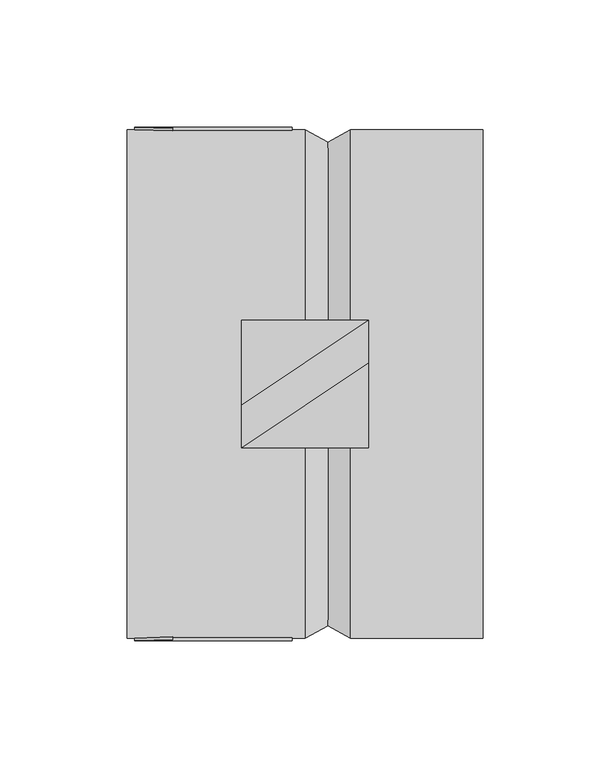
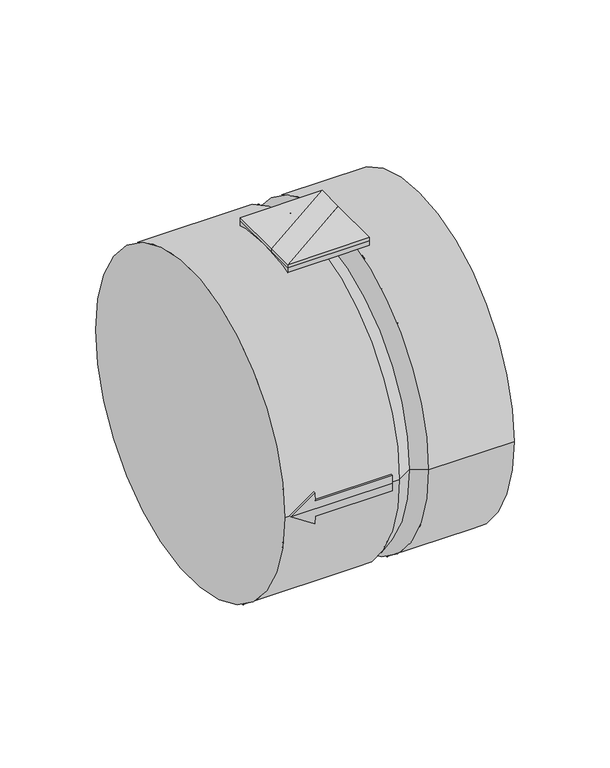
"""IFC4 building model written with IfcOpenShell, lengths in millimetres: damper geometry, KORF_Клапан_Обратный_Круглый_KOK : КОK 200."""

from ifc_helpers import new_model, si_unit, frame, origin, place, context, project, spatial, polyline, circle_curve, ellipse_curve, outline, extrude, source, transform, mapped, element, save
from ifc_brep_helpers import plane_surface, cylinder_surface, revolved_surface, advanced_brep


def damper_7a215fe3(model_context):
    return source(origin(), model_context, "Body", "SolidModel", [
        extrude(outline(polyline([(95.0, 25.0), (95.0, 8.3333333), (45.0, -25.0), (45.0, -8.3333333), (95.0, 25.0)])), frame((0.0, 0.0, 100.0), z_axis=(0.0, 0.0, 1.0), x_axis=(1.0, 0.0, 0.0)), (0.0, 0.0, 1.0), 2.0),
        extrude(outline(polyline([(95.0, 25.0), (45.0, -8.3333333), (45.0, 25.0), (95.0, 25.0)])), frame((0.0, 0.0, 100.0), z_axis=(0.0, 0.0, 1.0), x_axis=(1.0, 0.0, 0.0)), (0.0, 0.0, 1.0), 2.0),
        extrude(outline(polyline([(45.0, -25.0), (95.0, 8.3333333), (95.0, -25.0), (45.0, -25.0)])), frame((0.0, 0.0, 100.0), z_axis=(0.0, 0.0, 1.0), x_axis=(1.0, 0.0, 0.0)), (0.0, 0.0, 1.0), 2.0),
        advanced_brep(
        [(18.0, -99.4987437, 10.0), (3.0, -100.0, 0.0), (3.0, -101.0, 0.0), (18.0, -100.5037313, 10.0), (18.0, -99.4987437, -10.0), (18.0, -100.5037313, -10.0), (18.0, -99.8749218, -5.0), (18.0, -100.8761617, -5.0), (65.0, -99.8749218, -5.0), (65.0, -100.8761617, -5.0), (65.0, -100.0, 0.0), (65.0, -99.8749218, 5.0), (65.0, -100.8761617, 5.0), (65.0, -101.0, 0.0), (18.0, -99.8749218, 5.0), (18.0, -100.8761617, 5.0)],
        [
            (0, 1, ellipse_curve(frame((3.0, 0.0, 0.0), z_axis=(0.5547001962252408, 0.0, -0.832050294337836), x_axis=(0.8320502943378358, 0.0, 0.5547001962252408)), 180.2775638, 100.0)),
            (1, 2),
            (2, 3, ellipse_curve(frame((3.0, 0.0, 0.0), z_axis=(-0.5547001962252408, 0.0, 0.832050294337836), x_axis=(-0.8320502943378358, 0.0, -0.5547001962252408)), 182.0803394, 101.0)),
            (3, 0),
            (1, 4, ellipse_curve(frame((3.0, 0.0, 0.0), z_axis=(0.5547001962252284, 0.0, 0.8320502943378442), x_axis=(0.8320502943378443, 0.0, -0.5547001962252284)), 180.2775638, 100.0)),
            (4, 5),
            (5, 2, ellipse_curve(frame((3.0, 0.0, 0.0), z_axis=(-0.5547001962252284, 0.0, -0.8320502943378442), x_axis=(-0.8320502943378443, 0.0, 0.5547001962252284)), 182.0803394, 101.0)),
            (4, 6, circle_curve(frame((18.0, 0.0, 0.0), z_axis=(-1.0, 0.0, 0.0), x_axis=(0.0, 1.0, 0.0)), 100.0)),
            (6, 7),
            (7, 5, circle_curve(frame((18.0, 0.0, 0.0), z_axis=(1.0, 0.0, 0.0), x_axis=(0.0, 1.0, 0.0)), 101.0)),
            (6, 8),
            (8, 9),
            (9, 7),
            (8, 10, circle_curve(frame((65.0, 0.0, 0.0), z_axis=(-1.0, 0.0, 0.0), x_axis=(0.0, 1.0, 0.0)), 100.0)),
            (10, 11, circle_curve(frame((65.0, 0.0, 0.0), z_axis=(-1.0, 0.0, 0.0), x_axis=(0.0, 1.0, 0.0)), 100.0)),
            (11, 12),
            (12, 13, circle_curve(frame((65.0, 0.0, 0.0), z_axis=(1.0, 0.0, 0.0), x_axis=(0.0, 1.0, 0.0)), 101.0)),
            (13, 9, circle_curve(frame((65.0, 0.0, 0.0), z_axis=(1.0, 0.0, 0.0), x_axis=(0.0, 1.0, 0.0)), 101.0)),
            (11, 14),
            (14, 15),
            (15, 12),
            (14, 0, circle_curve(frame((18.0, 0.0, 0.0), z_axis=(-1.0, 0.0, 0.0), x_axis=(0.0, 1.0, 0.0)), 100.0)),
            (3, 15, circle_curve(frame((18.0, 0.0, 0.0), z_axis=(1.0, 0.0, 0.0), x_axis=(0.0, 1.0, 0.0)), 101.0)),
            (1, 10),
            (2, 13),
        ],
        [
            plane_surface(frame((18.0, -102.0, 10.0), z_axis=(-0.5547001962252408, 0.0, 0.832050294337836), x_axis=(0.0, 1.0, 0.0))),
            plane_surface(frame((3.0, -102.0, 0.0), z_axis=(-0.5547001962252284, 0.0, -0.8320502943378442), x_axis=(0.0, 1.0, 0.0))),
            plane_surface(frame((18.0, -102.0, -10.0), z_axis=(1.0, 0.0, 0.0), x_axis=(0.0, 1.0, 0.0))),
            plane_surface(frame((18.0, -102.0, -5.0), z_axis=(0.0, 0.0, -1.0), x_axis=(0.0, 1.0, 0.0))),
            plane_surface(frame((65.0, -102.0, -5.0), z_axis=(1.0, 0.0, 0.0), x_axis=(0.0, 1.0, 0.0))),
            plane_surface(frame((65.0, -102.0, 5.0), z_axis=(0.0, 0.0, 1.0), x_axis=(0.0, 1.0, 0.0))),
            plane_surface(frame((18.0, -102.0, 5.0), z_axis=(1.0, 0.0, 0.0), x_axis=(0.0, 1.0, 0.0))),
            revolved_surface(polyline([(153.0000000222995, 100.0, 0.0), (-147.0000000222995, 100.0, 0.0)]), (0.0, 0.0, 0.0), (1.0, 0.0, 0.0)),
            revolved_surface(polyline([(153.00000002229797, 100.0, 0.0), (-147.00000002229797, 100.0, 0.0)]), (0.0, 0.0, 0.0), (1.0, 0.0, 0.0)),
            cylinder_surface(frame((0.0, 0.0, 0.0), z_axis=(-1.0, 0.0, 0.0), x_axis=(0.0, 1.0, 0.0)), 101.0),
        ],
        [
            (0, [[1, 2, 3, 4]]),
            (1, [[5, 6, 7, -2]]),
            (2, [[8, 9, 10, -6]]),
            (3, [[11, 12, 13, -9]]),
            (4, [[14, 15, 16, 17, 18, -12]]),
            (5, [[19, 20, 21, -16]]),
            (6, [[22, -4, 23, -20]]),
            (7, [[24, -14, -11, -8, -5]]),
            (8, [[-24, -1, -22, -19, -15]]),
            (9, [[25, -17, -21, -23, -3]]),
            (9, [[-25, -7, -10, -13, -18]]),
        ],
    ),
        advanced_brep(
        [(3.0, 100.0, 0.0), (18.0, 99.4987437, 10.0), (18.0, 100.5037313, 10.0), (3.0, 101.0, 0.0), (18.0, 99.4987437, -10.0), (18.0, 100.5037313, -10.0), (18.0, 99.8749218, -5.0), (18.0, 100.8761617, -5.0), (65.0, 99.8749218, -5.0), (65.0, 100.8761617, -5.0), (65.0, 100.0, 0.0), (65.0, 101.0, 0.0), (65.0, 100.8761617, 5.0), (65.0, 99.8749218, 5.0), (18.0, 99.8749218, 5.0), (18.0, 100.8761617, 5.0)],
        [
            (0, 1, ellipse_curve(frame((3.0, 0.0, 0.0), z_axis=(0.5547001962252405, 0.0, -0.8320502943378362), x_axis=(0.8320502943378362, 0.0, 0.5547001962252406)), 180.2775638, 100.0)),
            (1, 2),
            (2, 3, ellipse_curve(frame((3.0, 0.0, 0.0), z_axis=(-0.5547001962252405, 0.0, 0.8320502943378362), x_axis=(-0.8320502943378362, 0.0, -0.5547001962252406)), 182.0803394, 101.0)),
            (3, 0),
            (4, 0, ellipse_curve(frame((3.0, 0.0, 0.0), z_axis=(0.554700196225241, 0.0, 0.8320502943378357), x_axis=(0.8320502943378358, 0.0, -0.554700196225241)), 180.2775638, 100.0)),
            (3, 5, ellipse_curve(frame((3.0, 0.0, 0.0), z_axis=(-0.554700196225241, 0.0, -0.8320502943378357), x_axis=(-0.8320502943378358, 0.0, 0.554700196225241)), 182.0803394, 101.0)),
            (5, 4),
            (6, 4, circle_curve(frame((18.0, 0.0, 0.0), z_axis=(-1.0, 0.0, 0.0), x_axis=(0.0, 1.0, 0.0)), 100.0)),
            (5, 7, circle_curve(frame((18.0, 0.0, 0.0), z_axis=(1.0, 0.0, 0.0), x_axis=(0.0, 1.0, 0.0)), 101.0)),
            (7, 6),
            (8, 6),
            (7, 9),
            (9, 8),
            (10, 8, circle_curve(frame((65.0, 0.0, 0.0), z_axis=(-1.0, 0.0, 0.0), x_axis=(0.0, 1.0, 0.0)), 100.0)),
            (9, 11, circle_curve(frame((65.0, 0.0, 0.0), z_axis=(1.0, 0.0, 0.0), x_axis=(0.0, 1.0, 0.0)), 101.0)),
            (11, 12, circle_curve(frame((65.0, 0.0, 0.0), z_axis=(1.0, 0.0, 0.0), x_axis=(0.0, 1.0, 0.0)), 101.0)),
            (12, 13),
            (13, 10, circle_curve(frame((65.0, 0.0, 0.0), z_axis=(-1.0, 0.0, 0.0), x_axis=(0.0, 1.0, 0.0)), 100.0)),
            (14, 13),
            (12, 15),
            (15, 14),
            (1, 14, circle_curve(frame((18.0, 0.0, 0.0), z_axis=(-1.0, 0.0, 0.0), x_axis=(0.0, 1.0, 0.0)), 100.0)),
            (15, 2, circle_curve(frame((18.0, 0.0, 0.0), z_axis=(1.0, 0.0, 0.0), x_axis=(0.0, 1.0, 0.0)), 101.0)),
            (10, 0),
            (11, 3),
        ],
        [
            plane_surface(frame((18.0, 98.0, 10.0), z_axis=(-0.5547001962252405, 0.0, 0.8320502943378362), x_axis=(0.0, 1.0, 0.0))),
            plane_surface(frame((3.0, 98.0, 0.0), z_axis=(-0.554700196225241, 0.0, -0.8320502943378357), x_axis=(0.0, 1.0, 0.0))),
            plane_surface(frame((18.0, 98.0, -10.0), z_axis=(1.0, 0.0, 0.0), x_axis=(0.0, 1.0, 0.0))),
            plane_surface(frame((18.0, 98.0, -5.0), z_axis=(0.0, 0.0, -1.0), x_axis=(0.0, 1.0, 0.0))),
            plane_surface(frame((65.0, 98.0, -5.0), z_axis=(1.0, 0.0, 0.0), x_axis=(0.0, 1.0, 0.0))),
            plane_surface(frame((65.0, 98.0, 5.0), z_axis=(0.0, 0.0, 1.0), x_axis=(0.0, 1.0, 0.0))),
            plane_surface(frame((18.0, 98.0, 5.0), z_axis=(1.0, 0.0, 0.0), x_axis=(0.0, 1.0, 0.0))),
            revolved_surface(polyline([(153.00000002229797, 100.0, 0.0), (-147.00000002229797, 100.0, 0.0)]), (0.0, 0.0, 0.0), (1.0, 0.0, 0.0)),
            revolved_surface(polyline([(153.00000002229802, 100.0, 0.0), (-147.00000002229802, 100.0, 0.0)]), (0.0, 0.0, 0.0), (1.0, 0.0, 0.0)),
            cylinder_surface(frame((0.0, 0.0, 0.0), z_axis=(-1.0, 0.0, 0.0), x_axis=(0.0, 1.0, 0.0)), 101.0),
        ],
        [
            (0, [[1, 2, 3, 4]]),
            (1, [[5, -4, 6, 7]]),
            (2, [[8, -7, 9, 10]]),
            (3, [[11, -10, 12, 13]]),
            (4, [[14, -13, 15, 16, 17, 18]]),
            (5, [[19, -17, 20, 21]]),
            (6, [[22, -21, 23, -2]]),
            (7, [[24, -5, -8, -11, -14]]),
            (8, [[-24, -18, -19, -22, -1]]),
            (9, [[25, -3, -23, -20, -16]]),
            (9, [[-25, -15, -12, -9, -6]]),
        ],
    ),
        advanced_brep(
        [(140.0, -100.0, 0.0), (140.0, 100.0, 0.0), (0.0, -100.0, 0.0), (0.0, 100.0, 0.0), (88.0, -100.0, 0.0), (88.0, 100.0, 0.0), (70.0, 100.0, 0.0), (70.0, -100.0, 0.0), (79.0, 95.0, 0.0), (79.0, -95.0, 0.0)],
        [
            (0, 1, circle_curve(frame((140.0, 0.0, 0.0), z_axis=(1.0, 0.0, 0.0), x_axis=(0.0, 1.0, 0.0)), 100.0)),
            (1, 0, circle_curve(frame((140.0, 0.0, 0.0), z_axis=(1.0, 0.0, 0.0), x_axis=(0.0, 1.0, 0.0)), 100.0)),
            (2, 3, circle_curve(frame((0.0, 0.0, 0.0), z_axis=(-1.0, 0.0, 0.0), x_axis=(0.0, 1.0, 0.0)), 100.0)),
            (3, 2, circle_curve(frame((0.0, 0.0, 0.0), z_axis=(-1.0, 0.0, 0.0), x_axis=(0.0, 1.0, 0.0)), 100.0)),
            (0, 4),
            (4, 5, circle_curve(frame((88.0, 0.0, 0.0), z_axis=(1.0, 0.0, 0.0), x_axis=(0.0, 1.0, 0.0)), 100.0)),
            (5, 1),
            (3, 6),
            (6, 7, circle_curve(frame((70.0, 0.0, 0.0), z_axis=(-1.0, 0.0, 0.0), x_axis=(0.0, 1.0, 0.0)), 100.0)),
            (7, 2),
            (5, 4, circle_curve(frame((88.0, 0.0, 0.0), z_axis=(1.0, 0.0, 0.0), x_axis=(0.0, 1.0, 0.0)), 100.0)),
            (7, 6, circle_curve(frame((70.0, 0.0, 0.0), z_axis=(-1.0, 0.0, 0.0), x_axis=(0.0, 1.0, 0.0)), 100.0)),
            (6, 8),
            (8, 9, circle_curve(frame((79.0, 0.0, 0.0), z_axis=(-1.0, 0.0, 0.0), x_axis=(0.0, -1.0, 0.0)), 95.0)),
            (9, 7),
            (8, 5),
            (4, 9),
            (9, 8, circle_curve(frame((79.0, 0.0, 0.0), z_axis=(-1.0, 0.0, 0.0), x_axis=(0.0, 1.0, 0.0)), 95.0)),
        ],
        [
            plane_surface(frame((140.0, 100.0, 0.0), z_axis=(1.0, 0.0, 0.0), x_axis=(0.0, 0.0, 1.0))),
            plane_surface(frame((0.0, 100.0, 0.0), z_axis=(-1.0, 0.0, 0.0), x_axis=(0.0, 0.0, -1.0))),
            cylinder_surface(frame((0.0, 0.0, 0.0), z_axis=(1.0, 0.0, 0.0), x_axis=(0.0, 1.0, 0.0)), 100.0),
            revolved_surface(polyline([(70.0, -100.0, 0.0), (79.0, -95.0, 0.0)]), (0.0, 0.0, 0.0), (1.0, 0.0, 0.0)),
            revolved_surface(polyline([(79.0, -95.0, 0.0), (88.0, -100.0, 0.0)]), (0.0, 0.0, 0.0), (1.0, 0.0, 0.0)),
            revolved_surface(polyline([(70.0, 100.0, 0.0), (79.0, 95.0, 0.0)]), (0.0, 0.0, 0.0), (1.0, 0.0, 0.0)),
            revolved_surface(polyline([(79.0, 95.0, 0.0), (88.0, 100.0, 0.0)]), (0.0, 0.0, 0.0), (1.0, 0.0, 0.0)),
        ],
        [
            (0, [[1, 2]]),
            (1, [[3, 4]]),
            (2, [[-1, 5, 6, 7]]),
            (2, [[-4, 8, 9, 10]]),
            (2, [[-2, -7, 11, -5]]),
            (2, [[-3, -10, 12, -8]]),
            (3, [[13, 14, 15, -9]]),
            (4, [[-14, 16, -6, 17]]),
            (5, [[-13, -12, -15, 18]]),
            (6, [[-16, -18, -17, -11]]),
        ],
    ),
        advanced_brep(
        [(45.0, 25.0, 96.8245837), (95.0, 25.0, 96.8245837), (95.0, 0.0, 100.0), (95.0, -25.0, 96.8245837), (45.0, -25.0, 96.8245837), (45.0, 0.0, 100.0), (95.0, 25.0, 100.0), (45.0, 25.0, 100.0), (45.0, -25.0, 100.0), (95.0, -25.0, 100.0)],
        [
            (0, 1),
            (1, 2, circle_curve(frame((95.0, 0.0, 0.0), z_axis=(1.0, 0.0, 0.0), x_axis=(0.0, 1.0, 0.0)), 100.0)),
            (2, 3, circle_curve(frame((95.0, 0.0, 0.0), z_axis=(1.0, 0.0, 0.0), x_axis=(0.0, 1.0, 0.0)), 100.0)),
            (3, 4),
            (4, 5, circle_curve(frame((45.0, 0.0, 0.0), z_axis=(-1.0, 0.0, 0.0), x_axis=(0.0, 1.0, 0.0)), 100.0)),
            (5, 0, circle_curve(frame((45.0, 0.0, 0.0), z_axis=(-1.0, 0.0, 0.0), x_axis=(0.0, 1.0, 0.0)), 100.0)),
            (6, 7),
            (7, 5),
            (5, 8),
            (8, 9),
            (9, 2),
            (2, 6),
            (6, 1),
            (0, 7),
            (4, 8),
            (3, 9),
        ],
        [
            revolved_surface(polyline([(95.0, 100.0, 0.0), (45.0, 100.0, 0.0)]), (0.0, 0.0, 0.0), (1.0, 0.0, 0.0)),
            plane_surface(frame((45.0, 25.0, 100.0), z_axis=(0.0, 0.0, 1.0), x_axis=(-1.0, 0.0, 0.0))),
            plane_surface(frame((95.0, 25.0, 100.0), z_axis=(0.0, 1.0, 0.0), x_axis=(0.0, 0.0, -1.0))),
            plane_surface(frame((45.0, 25.0, 100.0), z_axis=(-1.0, 0.0, 0.0), x_axis=(0.0, 0.0, -1.0))),
            plane_surface(frame((45.0, -25.0, 100.0), z_axis=(0.0, -1.0, 0.0), x_axis=(0.0, 0.0, -1.0))),
            plane_surface(frame((95.0, -25.0, 100.0), z_axis=(1.0, 0.0, 0.0), x_axis=(0.0, 0.0, -1.0))),
        ],
        [
            (0, [[1, 2, 3, 4, 5, 6]]),
            (1, [[7, 8, 9, 10, 11, 12]]),
            (2, [[-7, 13, -1, 14]]),
            (3, [[-8, -14, -6]]),
            (3, [[-9, -5, 15]]),
            (4, [[-10, -15, -4, 16]]),
            (5, [[-11, -16, -3]]),
            (5, [[-12, -2, -13]]),
        ],
    ),
    ])


if __name__ == "__main__":
    model = new_model("IFC4")
    model_context = context("Model", 3, world=origin())
    ifc_project = project(units=[si_unit("LENGTHUNIT", "METRE", prefix="MILLI")], contexts=[model_context])
    site = spatial("IfcSite", under=ifc_project)
    building = spatial("IfcBuilding", under=site)
    placement = place(None, origin())
    damper_shape = damper_7a215fe3(model_context)
    element("IfcDamper", 1, ObjectType="KORF_Клапан_Обратный_Круглый_KOK : КОK 200", at=placement, inside=building, context=model_context, shape_type="MappedRepresentation", body=[
        mapped(damper_shape, transform((0.0, 0.0, 0.0), x_axis=(1.0, 0.0, 0.0), y_axis=(0.0, 1.0, 0.0), z_axis=(0.0, 0.0, 1.0))),
    ])
    save(model, "model.ifc")
